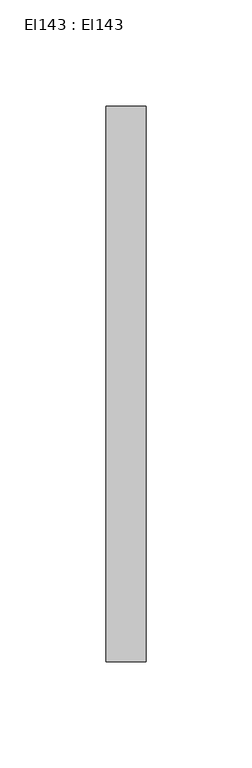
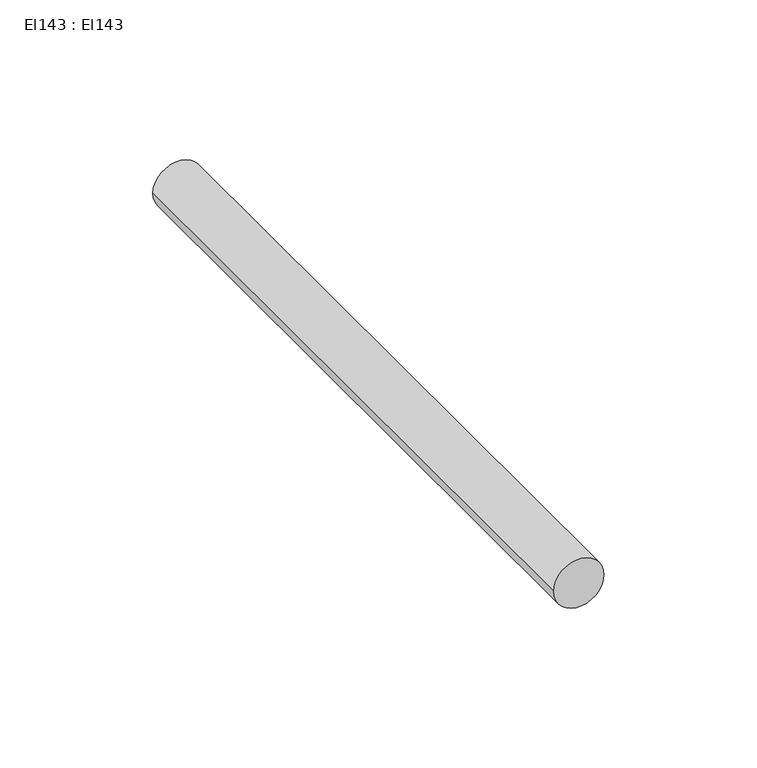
"""IFC4 building model written with IfcOpenShell, lengths in millimetres: cable carrier segment geometry, El143 : El143."""

from ifc_helpers import new_model, si_unit, point, frame, frame_2d, origin, place, context, project, spatial, circle_curve, trimmed, segment, composite_curve, outline, extrude, source, transform, mapped, element, save


def el143_el143_1d36a51e(model_context):
    return source(origin(), model_context, "Body", "SweptSolid", [
        extrude(outline(composite_curve([segment(trimmed(circle_curve(frame_2d((300.0, 23680.0)), 9.5), [point((300.0, 23670.5))], [point((300.0, 23689.5))], False, "CARTESIAN"), True, "CONTINUOUS"), segment(trimmed(circle_curve(frame_2d((300.0, 23680.0)), 9.5), [point((300.0, 23689.5))], [point((300.0, 23670.5))], False, "CARTESIAN"), True, "CONTINUOUS")], self_intersect=False)), frame((0.0, 10297.409, 0.0), z_axis=(0.0, 1.0, 0.0), x_axis=(0.0, 0.0, 1.0)), (0.0, 0.0, 1.0), 261.982),
    ])


if __name__ == "__main__":
    model = new_model("IFC4")
    model_context = context("Model", 3, world=origin())
    ifc_project = project(units=[si_unit("LENGTHUNIT", "METRE", prefix="MILLI")], contexts=[model_context])
    site = spatial("IfcSite", under=ifc_project)
    building = spatial("IfcBuilding", under=site)
    placement = place(None, origin())
    el143_el143_shape = el143_el143_1d36a51e(model_context)
    element("IfcCableCarrierSegment", 1, ObjectType="El143 : El143", at=placement, inside=building, context=model_context, shape_type="MappedRepresentation", body=[
        mapped(el143_el143_shape, transform((0.0, 0.0, 0.0), x_axis=(1.0, 0.0, 0.0), y_axis=(0.0, 1.0, 0.0), z_axis=(0.0, 0.0, 1.0))),
    ])
    save(model, "model.ifc")
